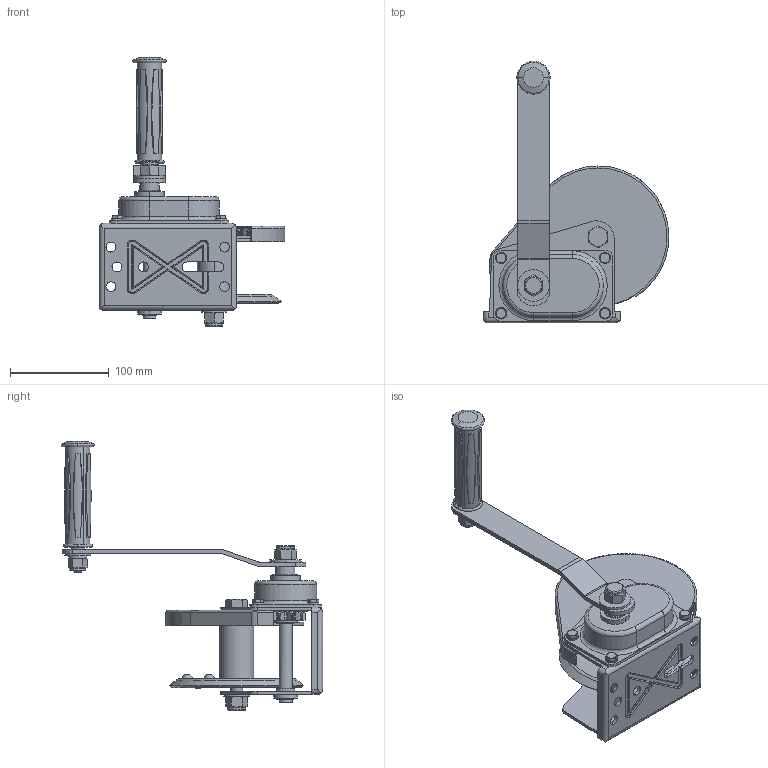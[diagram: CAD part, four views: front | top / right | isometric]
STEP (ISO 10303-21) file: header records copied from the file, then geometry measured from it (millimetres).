
FILE_DESCRIPTION( (''), '2;1');
FILE_NAME ('PM-200.stp','2023-04-12T16:58:57',(''),(''),'spGate 19.8.2 (****-****-****-****)','','');
FILE_SCHEMA (('AUTOMOTIVE_DESIGN'));
Length unit declared in the file: millimetre
Products named in the file (3): Assembly; PM-200-prt0; PM-200-prt1
Assembly tree (2 placements, depth 2):
  Assembly
    PM-200-prt0
    PM-200-prt1
Bounding box: 187.88 x 264.21 x 272 mm (x, y, z)
Volume: 662452.1 mm3; surface area: 230405.6 mm2
Topology: 2 solids, 2 shells, 1073 faces, 2820 edges, 1800 vertices
Faces by surface type: cylinder 620, plane 299, bspline 144, sphere 10
Entity records: 58666 total; most frequent: CARTESIAN_POINT 10731, ORIENTED_EDGE 5640, DIRECTION 5282, COLOUR_RGB 3895, PRESENTATION_STYLE_ASSIGNMENT 3895, STYLED_ITEM 3895, EDGE_CURVE 2820, DRAUGHTING_PRE_DEFINED_CURVE_FONT 2820
